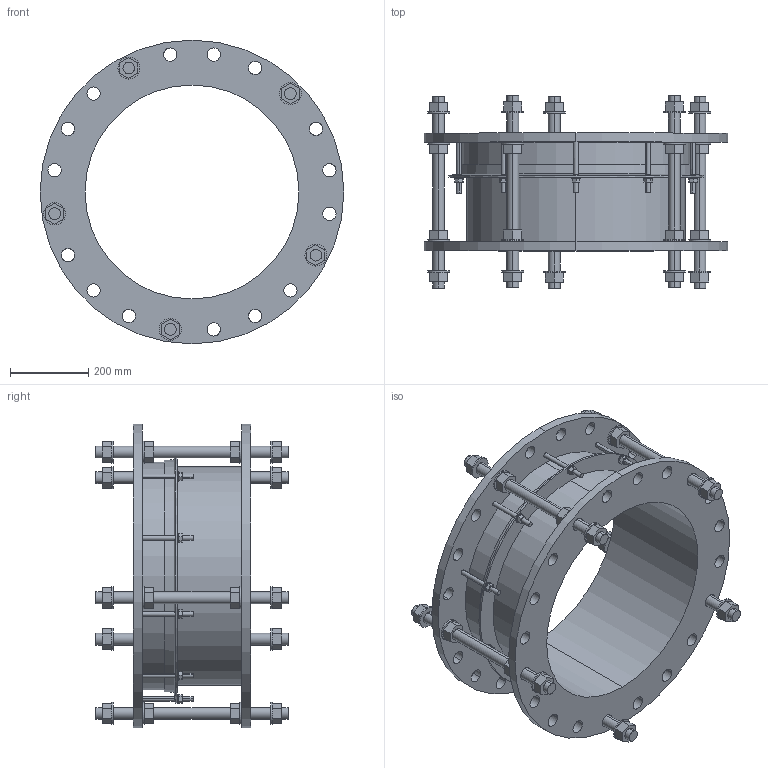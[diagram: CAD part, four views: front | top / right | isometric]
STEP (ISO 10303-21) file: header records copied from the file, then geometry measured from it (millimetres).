
FILE_DESCRIPTION((''),'2;1');
FILE_NAME('LO2_DJ_BIM_ASM','2020-11-27T',('mfairey'),('Glynwed Pipe Systems'),'CREO PARAMETRIC BY PTC INC, 2016130','CREO PARAMETRIC BY PTC INC, 2016130','');
FILE_SCHEMA(('CONFIG_CONTROL_DESIGN'));
Length unit declared in the file: millimetre
Products named in the file (3): DJ_AF0; TIE_BOLT_BIM; LO2_DJ_BIM_ASM
Assembly tree (6 placements, depth 2):
  LO2_DJ_BIM_ASM
    DJ_AF0
    TIE_BOLT_BIM  x5
Bounding box: 775 x 490 x 775 mm (x, y, z)
Volume: 17800124.4 mm3; surface area: 2557055.2 mm2
Topology: 6 solids, 6 shells, 542 faces, 1320 edges, 872 vertices
Faces by surface type: plane 296, cylinder 242, cone 4
Entity records: 10636 total; most frequent: CARTESIAN_POINT 2267, DIRECTION 1810, ORIENTED_EDGE 1632, EDGE_CURVE 816, AXIS2_PLACEMENT_3D 691, VERTEX_POINT 536, EDGE_LOOP 454, VECTOR 428
